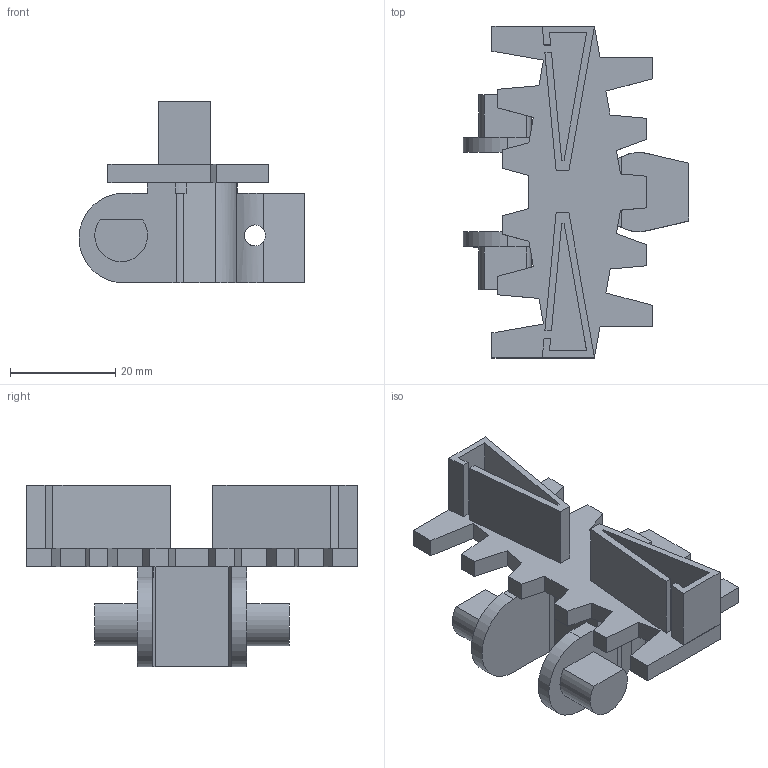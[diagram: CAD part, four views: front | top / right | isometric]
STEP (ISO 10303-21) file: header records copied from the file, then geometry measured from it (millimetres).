
FILE_DESCRIPTION (( 'STEP AP214' ), '1' );
FILE_NAME ('FSCT-5A-H12-P.STEP', '2011-09-28T07:53:14', ( '.' ), ( '' ), 'SwSTEP 2.0', 'SolidWorks 2010', '' );
FILE_SCHEMA (( 'AUTOMOTIVE_DESIGN' ));
Length unit declared in the file: millimetre
Products named in the file (1): FSCT-5A-H12-P
Bounding box: 42.9 x 63 x 34.5 mm (x, y, z)
Volume: 15264.9 mm3; surface area: 10425.3 mm2
Topology: 1 solids, 1 shells, 115 faces, 333 edges, 220 vertices
Faces by surface type: plane 101, cylinder 14
Entity records: 3849 total; most frequent: CARTESIAN_POINT 767, ORIENTED_EDGE 666, DIRECTION 585, EDGE_CURVE 333, LINE 297, VECTOR 297, VERTEX_POINT 220, AXIS2_PLACEMENT_3D 144
